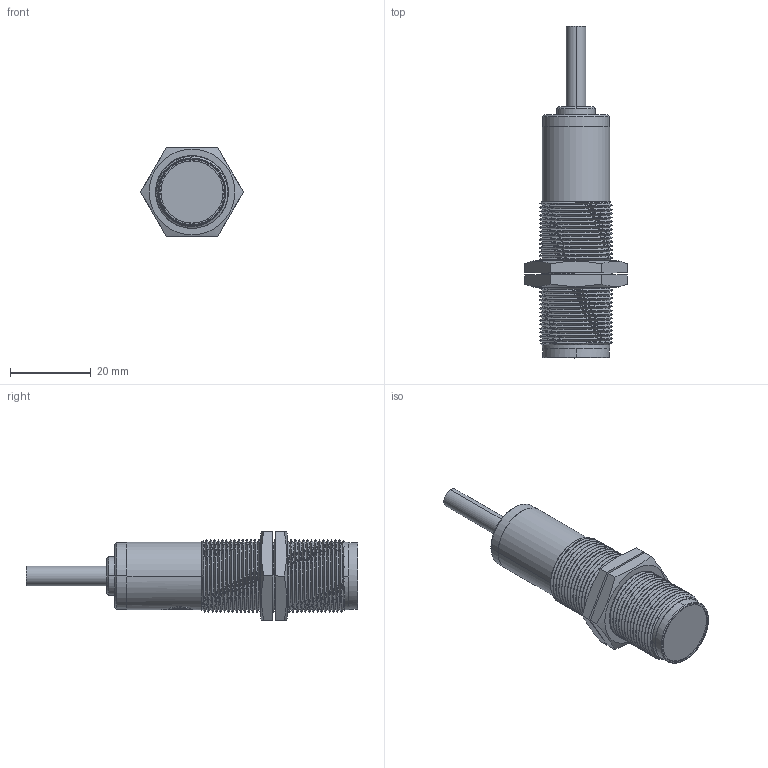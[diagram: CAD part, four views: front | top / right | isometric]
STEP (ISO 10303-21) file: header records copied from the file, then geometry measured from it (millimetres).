
FILE_DESCRIPTION (( 'STEP AP203' ), '1' );
FILE_NAME ('PML18.STEP', '2022-07-14T11:11:13', ( 'Windows User' ), ( 'P R C' ), 'SwSTEP 2.0', 'SolidWorks 2016', '' );
FILE_SCHEMA (( 'CONFIG_CONTROL_DESIGN' ));
Length unit declared in the file: inch
Products named in the file (16): LVGUANGPIAN_YPP; M18X_YPP; PML18-DR; PCB_YPP; PM18蹟恇; M18HOUSAI_YPP; PML18; PM18-YMIFENGTAO_YPP; DAOXIAN_YPP; LENS_YPP; OLING_YPP; OM18_YPP; MIFENG_YPP; PIANZHENGP-01_YPP; MIFENG01_YPP; PIANZHEN-02_YPP
Assembly tree (16 placements, depth 3):
  PML18
    PML18-DR
      LENS_YPP
      OM18_YPP
      PIANZHENGP-01_YPP
      PIANZHEN-02_YPP
      M18X_YPP
      PCB_YPP
      M18HOUSAI_YPP
      PM18-YMIFENGTAO_YPP
      DAOXIAN_YPP
      OLING_YPP
      MIFENG_YPP
      MIFENG01_YPP
      LVGUANGPIAN_YPP
    PM18蹟恇  x2
Bounding box: 25.4 x 82.23 x 22 mm (x, y, z)
Volume: 7819.2 mm3; surface area: 16463 mm2
Topology: 18 solids, 18 shells, 644 faces, 1799 edges, 1222 vertices
Faces by surface type: plane 292, cylinder 250, bspline 60, cone 38, torus 4
Entity records: 37627 total; most frequent: CARTESIAN_POINT 20518, ORIENTED_EDGE 3530, DIRECTION 2697, EDGE_CURVE 1765, VERTEX_POINT 1200, AXIS2_PLACEMENT_3D 930, VECTOR 837, LINE 837
